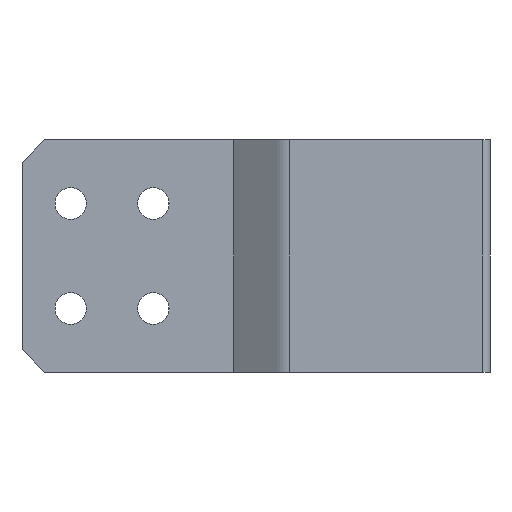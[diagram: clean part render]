
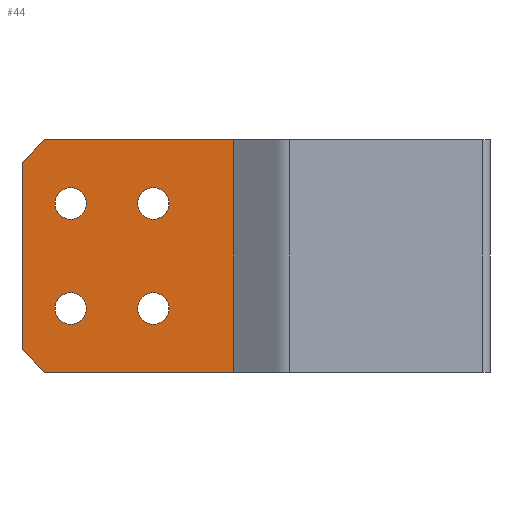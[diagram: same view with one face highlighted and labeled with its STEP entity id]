
A CAD part, front view. The second image highlights one B-rep face of the part: STEP entity #44.
In plain terms, the highlighted planar face has unit normal (0, -1, 0).
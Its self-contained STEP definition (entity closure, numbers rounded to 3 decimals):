
#44 = ADVANCED_FACE ( 'NONE', ( #1148, #1162, #1145, #1143, #1149 ), #1147, .F. ) ;
#81 = EDGE_CURVE ( 'NONE', #1379, #1340, #811, .T. ) ;
#82 = EDGE_CURVE ( 'NONE', #1465, #1345, #806, .T. ) ;
#90 = EDGE_CURVE ( 'NONE', #1334, #1335, #168, .T. ) ;
#91 = EDGE_CURVE ( 'NONE', #1476, #1465, #775, .T. ) ;
#96 = EDGE_CURVE ( 'NONE', #1345, #1344, #760, .T. ) ;
#108 = EDGE_CURVE ( 'NONE', #1344, #1379, #721, .T. ) ;
#122 = EDGE_CURVE ( 'NONE', #1476, #1340, #675, .T. ) ;
#125 = EDGE_CURVE ( 'NONE', #1335, #1334, #166, .T. ) ;
#136 = EDGE_CURVE ( 'NONE', #1351, #1343, #465, .T. ) ;
#141 = EDGE_CURVE ( 'NONE', #1350, #1348, #425, .T. ) ;
#143 = EDGE_CURVE ( 'NONE', #1348, #1350, #426, .T. ) ;
#149 = EDGE_CURVE ( 'NONE', #1343, #1351, #398, .T. ) ;
#152 = EDGE_CURVE ( 'NONE', #1349, #1346, #239, .T. ) ;
#154 = EDGE_CURVE ( 'NONE', #1346, #1349, #354, .T. ) ;
#160 = VECTOR ( 'NONE', #673, 1000. ) ;
#164 = AXIS2_PLACEMENT_3D ( 'NONE', #774, #773, #772 ) ;
#166 = CIRCLE ( 'NONE', #411, 2.1 ) ;
#168 = CIRCLE ( 'NONE', #164, 2.1 ) ;
#175 = VECTOR ( 'NONE', #756, 1000. ) ;
#213 = VECTOR ( 'NONE', #719, 1000. ) ;
#222 = AXIS2_PLACEMENT_3D ( 'NONE', #563, #562, #561 ) ;
#239 = CIRCLE ( 'NONE', #241, 2.1 ) ;
#241 = AXIS2_PLACEMENT_3D ( 'NONE', #552, #551, #550 ) ;
#264 = VECTOR ( 'NONE', #798, 1000. ) ;
#265 = AXIS2_PLACEMENT_3D ( 'NONE', #545, #544, #543 ) ;
#316 = AXIS2_PLACEMENT_3D ( 'NONE', #1133, #1132, #1131 ) ;
#326 = VECTOR ( 'NONE', #771, 1000. ) ;
#354 = CIRCLE ( 'NONE', #265, 2.1 ) ;
#398 = CIRCLE ( 'NONE', #222, 2.1 ) ;
#411 = AXIS2_PLACEMENT_3D ( 'NONE', #665, #664, #663 ) ;
#422 = VECTOR ( 'NONE', #800, 1000. ) ;
#425 = CIRCLE ( 'NONE', #438, 2.1 ) ;
#426 = CIRCLE ( 'NONE', #447, 2.1 ) ;
#436 = AXIS2_PLACEMENT_3D ( 'NONE', #617, #616, #615 ) ;
#438 = AXIS2_PLACEMENT_3D ( 'NONE', #587, #586, #585 ) ;
#447 = AXIS2_PLACEMENT_3D ( 'NONE', #583, #582, #581 ) ;
#465 = CIRCLE ( 'NONE', #436, 2.1 ) ;
#496 = CARTESIAN_POINT ( 'NONE',  ( 28.258, -3.17, 15.5 ) ) ;
#504 = CARTESIAN_POINT ( 'NONE',  ( 28.258, -3.17, -15.5 ) ) ;
#518 = CARTESIAN_POINT ( 'NONE',  ( 0., -3.17, 12.5 ) ) ;
#527 = CARTESIAN_POINT ( 'NONE',  ( 6.5, -3.17, -4.9 ) ) ;
#528 = CARTESIAN_POINT ( 'NONE',  ( 6.5, -3.17, 4.9 ) ) ;
#529 = CARTESIAN_POINT ( 'NONE',  ( 17.5, -3.17, 4.9 ) ) ;
#530 = CARTESIAN_POINT ( 'NONE',  ( 6.5, -3.17, 9.1 ) ) ;
#532 = CARTESIAN_POINT ( 'NONE',  ( 17.5, -3.17, 9.1 ) ) ;
#533 = CARTESIAN_POINT ( 'NONE',  ( 3., -3.17, -15.5 ) ) ;
#534 = CARTESIAN_POINT ( 'NONE',  ( 0., -3.17, -12.5 ) ) ;
#535 = CARTESIAN_POINT ( 'NONE',  ( 6.5, -3.17, -9.1 ) ) ;
#537 = CARTESIAN_POINT ( 'NONE',  ( 3., -3.17, 15.5 ) ) ;
#541 = CARTESIAN_POINT ( 'NONE',  ( 17.5, -3.17, -4.9 ) ) ;
#543 = DIRECTION ( 'NONE',  ( 0., 0., 1. ) ) ;
#544 = DIRECTION ( 'NONE',  ( 0., -1., 0. ) ) ;
#545 = CARTESIAN_POINT ( 'NONE',  ( 17.5, -3.17, 7. ) ) ;
#548 = CARTESIAN_POINT ( 'NONE',  ( 17.5, -3.17, -9.1 ) ) ;
#550 = DIRECTION ( 'NONE',  ( 0., 0., 1. ) ) ;
#551 = DIRECTION ( 'NONE',  ( 0., -1., 0. ) ) ;
#552 = CARTESIAN_POINT ( 'NONE',  ( 17.5, -3.17, 7. ) ) ;
#561 = DIRECTION ( 'NONE',  ( 0., 0., 1. ) ) ;
#562 = DIRECTION ( 'NONE',  ( 0., -1., 0. ) ) ;
#563 = CARTESIAN_POINT ( 'NONE',  ( 6.5, -3.17, -7. ) ) ;
#581 = DIRECTION ( 'NONE',  ( 0., 0., 1. ) ) ;
#582 = DIRECTION ( 'NONE',  ( 0., -1., 0. ) ) ;
#583 = CARTESIAN_POINT ( 'NONE',  ( 6.5, -3.17, 7. ) ) ;
#585 = DIRECTION ( 'NONE',  ( 0., 0., 1. ) ) ;
#586 = DIRECTION ( 'NONE',  ( 0., -1., 0. ) ) ;
#587 = CARTESIAN_POINT ( 'NONE',  ( 6.5, -3.17, 7. ) ) ;
#615 = DIRECTION ( 'NONE',  ( 0., 0., 1. ) ) ;
#616 = DIRECTION ( 'NONE',  ( 0., -1., 0. ) ) ;
#617 = CARTESIAN_POINT ( 'NONE',  ( 6.5, -3.17, -7. ) ) ;
#663 = DIRECTION ( 'NONE',  ( 0., 0., 1. ) ) ;
#664 = DIRECTION ( 'NONE',  ( 0., -1., 0. ) ) ;
#665 = CARTESIAN_POINT ( 'NONE',  ( 17.5, -3.17, -7. ) ) ;
#673 = DIRECTION ( 'NONE',  ( -1., 0., 0. ) ) ;
#674 = CARTESIAN_POINT ( 'NONE',  ( 28.31, -3.17, 15.5 ) ) ;
#675 = LINE ( 'NONE', #674, #160 ) ;
#719 = DIRECTION ( 'NONE',  ( 0., 0., 1. ) ) ;
#720 = CARTESIAN_POINT ( 'NONE',  ( 0., -3.17, 15.5 ) ) ;
#721 = LINE ( 'NONE', #720, #213 ) ;
#756 = DIRECTION ( 'NONE',  ( -0.707, 0., 0.707 ) ) ;
#760 = LINE ( 'NONE', #770, #175 ) ;
#770 = CARTESIAN_POINT ( 'NONE',  ( 0., -3.17, -12.5 ) ) ;
#771 = DIRECTION ( 'NONE',  ( 0., 0., -1. ) ) ;
#772 = DIRECTION ( 'NONE',  ( 0., 0., 1. ) ) ;
#773 = DIRECTION ( 'NONE',  ( 0., -1., 0. ) ) ;
#774 = CARTESIAN_POINT ( 'NONE',  ( 17.5, -3.17, -7. ) ) ;
#775 = LINE ( 'NONE', #778, #326 ) ;
#778 = CARTESIAN_POINT ( 'NONE',  ( 28.258, -3.17, 15.5 ) ) ;
#798 = DIRECTION ( 'NONE',  ( -1., 0., 0. ) ) ;
#799 = CARTESIAN_POINT ( 'NONE',  ( 28.31, -3.17, -15.5 ) ) ;
#800 = DIRECTION ( 'NONE',  ( 0.707, 0., 0.707 ) ) ;
#801 = CARTESIAN_POINT ( 'NONE',  ( 0., -3.17, 12.5 ) ) ;
#806 = LINE ( 'NONE', #799, #264 ) ;
#811 = LINE ( 'NONE', #801, #422 ) ;
#1131 = DIRECTION ( 'NONE',  ( 0., 0., 1. ) ) ;
#1132 = DIRECTION ( 'NONE',  ( 0., 1., 0. ) ) ;
#1133 = CARTESIAN_POINT ( 'NONE',  ( 0., -3.17, 15.5 ) ) ;
#1143 = FACE_BOUND ( 'NONE', #1222, .T. ) ;
#1145 = FACE_BOUND ( 'NONE', #1232, .T. ) ;
#1147 = PLANE ( 'NONE',  #316 ) ;
#1148 = FACE_OUTER_BOUND ( 'NONE', #1224, .T. ) ;
#1149 = FACE_BOUND ( 'NONE', #1235, .T. ) ;
#1162 = FACE_BOUND ( 'NONE', #1233, .T. ) ;
#1222 = EDGE_LOOP ( 'NONE', ( #1374, #1376 ) ) ;
#1224 = EDGE_LOOP ( 'NONE', ( #1275, #1276, #1295, #1261, #1447, #1461 ) ) ;
#1232 = EDGE_LOOP ( 'NONE', ( #1387, #1367 ) ) ;
#1233 = EDGE_LOOP ( 'NONE', ( #1263, #1264 ) ) ;
#1235 = EDGE_LOOP ( 'NONE', ( #1382, #1419 ) ) ;
#1261 = ORIENTED_EDGE ( 'NONE', *, *, #82, .F. ) ;
#1263 = ORIENTED_EDGE ( 'NONE', *, *, #90, .F. ) ;
#1264 = ORIENTED_EDGE ( 'NONE', *, *, #125, .F. ) ;
#1275 = ORIENTED_EDGE ( 'NONE', *, *, #81, .F. ) ;
#1276 = ORIENTED_EDGE ( 'NONE', *, *, #108, .F. ) ;
#1295 = ORIENTED_EDGE ( 'NONE', *, *, #96, .F. ) ;
#1334 = VERTEX_POINT ( 'NONE', #541 ) ;
#1335 = VERTEX_POINT ( 'NONE', #548 ) ;
#1340 = VERTEX_POINT ( 'NONE', #537 ) ;
#1343 = VERTEX_POINT ( 'NONE', #535 ) ;
#1344 = VERTEX_POINT ( 'NONE', #534 ) ;
#1345 = VERTEX_POINT ( 'NONE', #533 ) ;
#1346 = VERTEX_POINT ( 'NONE', #532 ) ;
#1348 = VERTEX_POINT ( 'NONE', #530 ) ;
#1349 = VERTEX_POINT ( 'NONE', #529 ) ;
#1350 = VERTEX_POINT ( 'NONE', #528 ) ;
#1351 = VERTEX_POINT ( 'NONE', #527 ) ;
#1367 = ORIENTED_EDGE ( 'NONE', *, *, #149, .F. ) ;
#1374 = ORIENTED_EDGE ( 'NONE', *, *, #143, .F. ) ;
#1376 = ORIENTED_EDGE ( 'NONE', *, *, #141, .F. ) ;
#1379 = VERTEX_POINT ( 'NONE', #518 ) ;
#1382 = ORIENTED_EDGE ( 'NONE', *, *, #154, .F. ) ;
#1387 = ORIENTED_EDGE ( 'NONE', *, *, #136, .F. ) ;
#1419 = ORIENTED_EDGE ( 'NONE', *, *, #152, .F. ) ;
#1447 = ORIENTED_EDGE ( 'NONE', *, *, #91, .F. ) ;
#1461 = ORIENTED_EDGE ( 'NONE', *, *, #122, .T. ) ;
#1465 = VERTEX_POINT ( 'NONE', #504 ) ;
#1476 = VERTEX_POINT ( 'NONE', #496 ) ;
